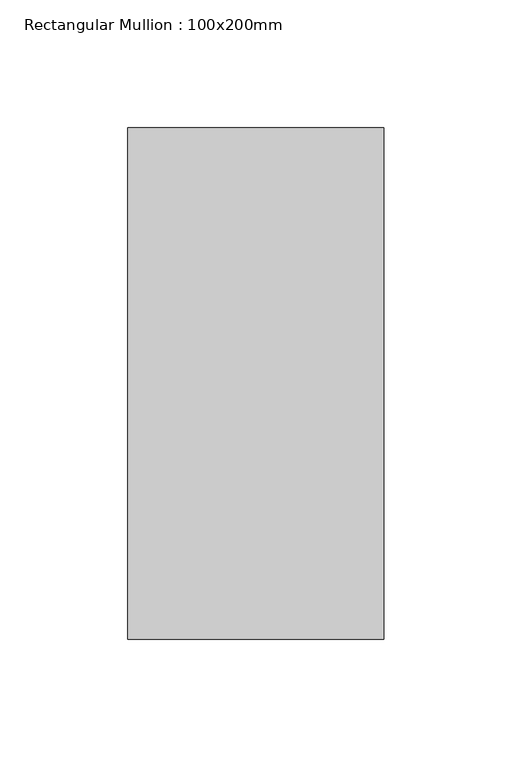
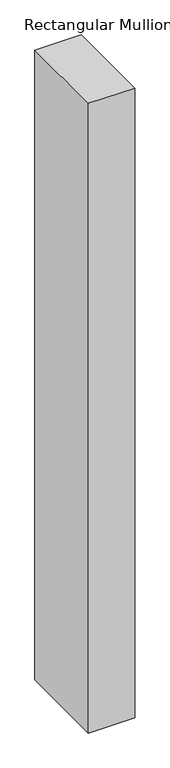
"""IFC4 building model written with IfcOpenShell, lengths in millimetres: member geometry, Rectangular Mullion : 100x200mm."""

from ifc_helpers import new_model, si_unit, frame, origin, place, context, project, spatial, polyline, outline, extrude, source, transform, mapped, element, save


def rectangular_mullion_100x200mm_780b2082(model_context):
    return source(origin(), model_context, "Body", "SweptSolid", [
        extrude(outline(polyline([(0.0, 100.0), (0.0, -100.0), (-100.0, -100.0), (-100.0, 100.0), (0.0, 100.0)])), frame((0.0, 0.0, -1436.7252931), z_axis=(0.0, 0.0, 1.0), x_axis=(1.0, 0.0, 0.0)), (0.0, 0.0, 1.0), 1436.7252931),
    ])


if __name__ == "__main__":
    model = new_model("IFC4")
    model_context = context("Model", 3, world=origin())
    ifc_project = project(units=[si_unit("LENGTHUNIT", "METRE", prefix="MILLI")], contexts=[model_context])
    site = spatial("IfcSite", under=ifc_project)
    building = spatial("IfcBuilding", under=site)
    placement = place(None, origin())
    rectangular_mullion_100x200mm_shape = rectangular_mullion_100x200mm_780b2082(model_context)
    element("IfcMember", 1, ObjectType="Rectangular Mullion : 100x200mm", at=placement, inside=building, context=model_context, shape_type="MappedRepresentation", body=[
        mapped(rectangular_mullion_100x200mm_shape, transform((0.0, 0.0, 0.0), x_axis=(1.0, 0.0, 0.0), y_axis=(0.0, 1.0, 0.0), z_axis=(0.0, 0.0, 1.0))),
    ])
    save(model, "model.ifc")
